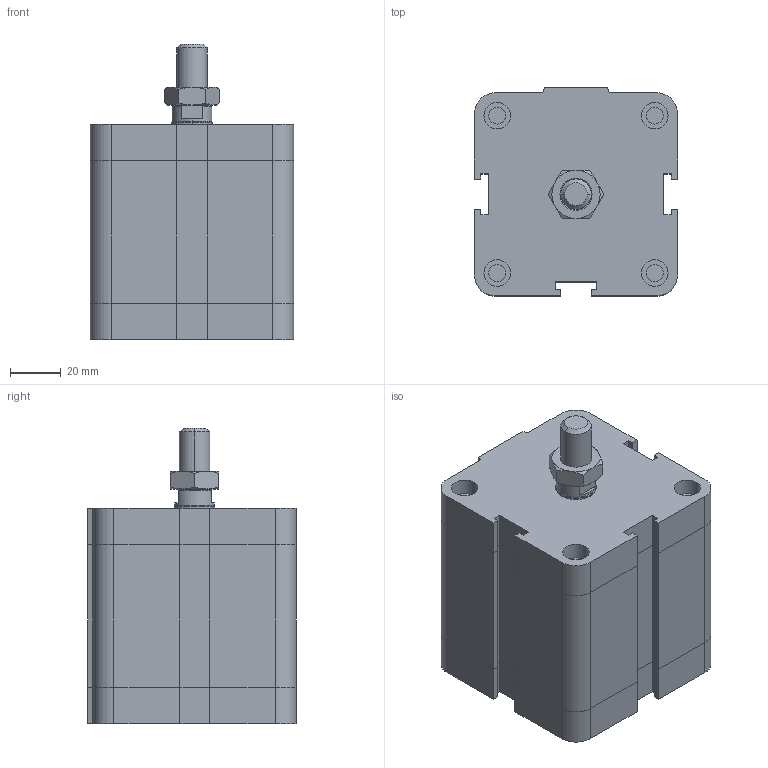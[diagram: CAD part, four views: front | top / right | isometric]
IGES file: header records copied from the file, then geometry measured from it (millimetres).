
Global section: file name: No Iges File Name specified; native system: Autodesk Inventor 2009; preprocessor: AutoDesk Inventor Iges Exporter R2009; author: rivolro1; date: 20081219.162438; units: millimetre
Bounding box: 80 x 82 x 116.5 mm (x, y, z)
Volume: 519767.5 mm3; surface area: 56077.2 mm2
Topology: 3 solids, 3 shells, 216 faces, 472 edges, 282 vertices
Faces by surface type: plane 121, bspline 37, cylinder 20, cone 20, revolution 18
